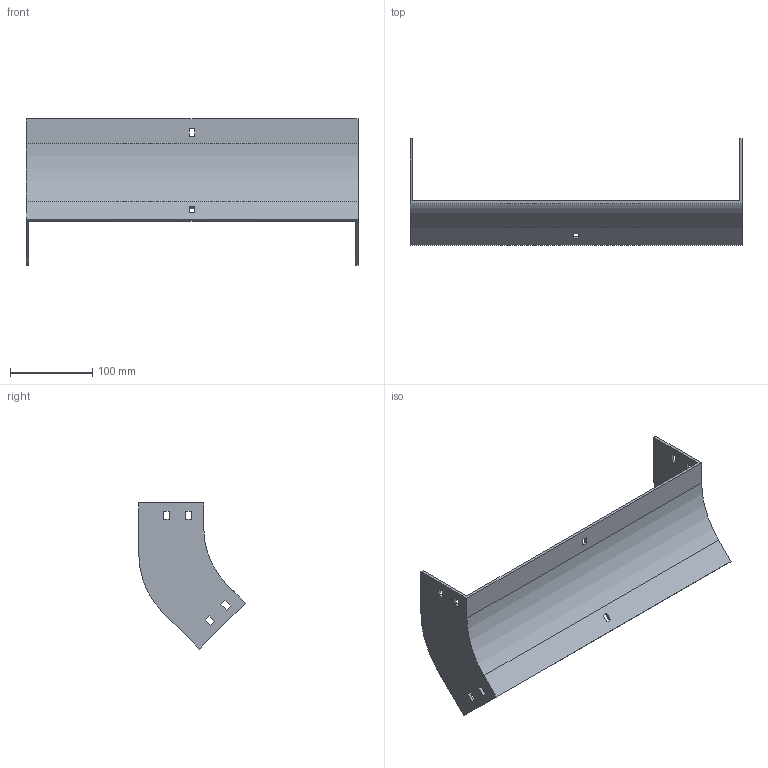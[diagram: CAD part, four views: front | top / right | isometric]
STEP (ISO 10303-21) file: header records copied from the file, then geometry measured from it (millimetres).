
FILE_DESCRIPTION (( 'STEP AP214' ), '1' );
FILE_NAME ('34F1C400.step', '2025-02-21T12:51:32', ( '' ), ( '' ), 'SwSTEP 2.0', 'SolidWorks 2023', '' );
FILE_SCHEMA (( 'AUTOMOTIVE_DESIGN' ));
Length unit declared in the file: millimetre
Products named in the file (1): 34F1C400
Bounding box: 404 x 129.5 x 177.79 mm (x, y, z)
Volume: 289129.1 mm3; surface area: 171688.9 mm2
Topology: 1 solids, 1 shells, 58 faces, 168 edges, 112 vertices
Faces by surface type: plane 54, cylinder 4
Entity records: 1943 total; most frequent: CARTESIAN_POINT 339, ORIENTED_EDGE 336, DIRECTION 294, EDGE_CURVE 168, LINE 160, VECTOR 160, VERTEX_POINT 112, EDGE_LOOP 78
